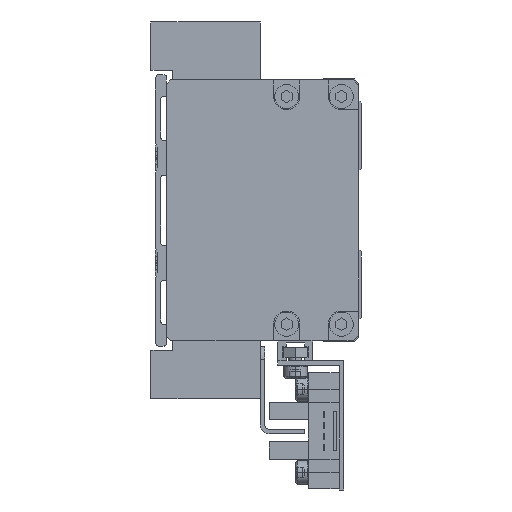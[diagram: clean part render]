
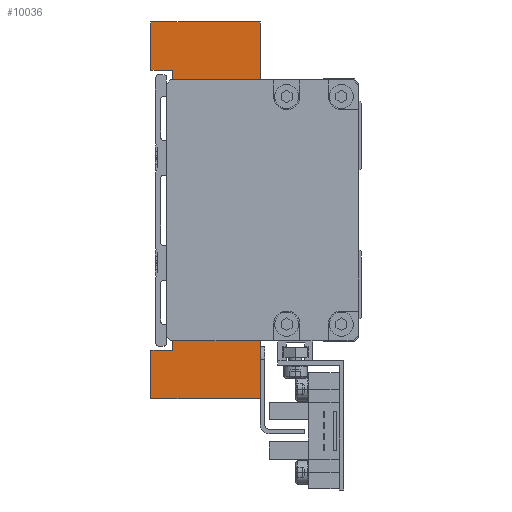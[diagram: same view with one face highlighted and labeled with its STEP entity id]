
A CAD part, left-side view. The second image highlights one B-rep face of the part: STEP entity #10036.
In plain terms, the highlighted planar face has unit normal (-1, 0, 0).
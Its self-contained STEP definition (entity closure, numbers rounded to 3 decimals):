
#158 = CARTESIAN_POINT ( 'NONE',  ( -77., 25., -32. ) ) ;
#394 = LINE ( 'NONE', #37944, #17163 ) ;
#1069 = LINE ( 'NONE', #34835, #35625 ) ;
#1081 = EDGE_CURVE ( 'NONE', #5918, #38554, #41211, .T. ) ;
#1323 = EDGE_CURVE ( 'NONE', #26289, #33802, #13485, .T. ) ;
#1567 = PLANE ( 'NONE',  #30807 ) ;
#2042 = DIRECTION ( 'NONE',  ( 0., 0., 1. ) ) ;
#2124 = CARTESIAN_POINT ( 'NONE',  ( -77., 0., -43. ) ) ;
#2476 = EDGE_CURVE ( 'NONE', #40049, #29755, #25386, .T. ) ;
#2695 = CARTESIAN_POINT ( 'NONE',  ( -77., 0., 43. ) ) ;
#2747 = CARTESIAN_POINT ( 'NONE',  ( -77., 10., 21. ) ) ;
#3418 = CARTESIAN_POINT ( 'NONE',  ( -77., 10., 21. ) ) ;
#3694 = ORIENTED_EDGE ( 'NONE', *, *, #29915, .F. ) ;
#4081 = CARTESIAN_POINT ( 'NONE',  ( -77., 0., -28. ) ) ;
#4165 = ORIENTED_EDGE ( 'NONE', *, *, #7227, .F. ) ;
#4426 = ORIENTED_EDGE ( 'NONE', *, *, #21443, .F. ) ;
#4429 = CARTESIAN_POINT ( 'NONE',  ( -77., 9., -21. ) ) ;
#4490 = ORIENTED_EDGE ( 'NONE', *, *, #1081, .F. ) ;
#4670 = VERTEX_POINT ( 'NONE', #10164 ) ;
#5067 = DIRECTION ( 'NONE',  ( 1., 0., 0. ) ) ;
#5171 = ORIENTED_EDGE ( 'NONE', *, *, #22488, .F. ) ;
#5528 = LINE ( 'NONE', #21082, #34335 ) ;
#5865 = LINE ( 'NONE', #11282, #6364 ) ;
#5918 = VERTEX_POINT ( 'NONE', #40939 ) ;
#5919 = EDGE_CURVE ( 'NONE', #29755, #15941, #5865, .T. ) ;
#6364 = VECTOR ( 'NONE', #14355, 1000. ) ;
#6502 = VECTOR ( 'NONE', #35739, 1000. ) ;
#7227 = EDGE_CURVE ( 'NONE', #10981, #5918, #41311, .T. ) ;
#7258 = CARTESIAN_POINT ( 'NONE',  ( -77., 9., -21. ) ) ;
#7646 = CARTESIAN_POINT ( 'NONE',  ( -77., 5., -21. ) ) ;
#7683 = EDGE_CURVE ( 'NONE', #16316, #12098, #1069, .T. ) ;
#8701 = EDGE_CURVE ( 'NONE', #26437, #4670, #27620, .T. ) ;
#9410 = CARTESIAN_POINT ( 'NONE',  ( -77., 20., 32. ) ) ;
#9486 = CARTESIAN_POINT ( 'NONE',  ( -77., 20., -32. ) ) ;
#9557 = DIRECTION ( 'NONE',  ( 0., 1., 0. ) ) ;
#9622 = ORIENTED_EDGE ( 'NONE', *, *, #5919, .F. ) ;
#10036 = ADVANCED_FACE ( 'NONE', ( #19652 ), #1567, .F. ) ;
#10098 = CARTESIAN_POINT ( 'NONE',  ( -77., 5., -21. ) ) ;
#10164 = CARTESIAN_POINT ( 'NONE',  ( -77., 0., -28. ) ) ;
#10880 = VECTOR ( 'NONE', #19548, 1000. ) ;
#10981 = VERTEX_POINT ( 'NONE', #23863 ) ;
#11260 = VECTOR ( 'NONE', #17054, 1000. ) ;
#11282 = CARTESIAN_POINT ( 'NONE',  ( -77., 25., -43. ) ) ;
#11992 = DIRECTION ( 'NONE',  ( 0., 1., 0. ) ) ;
#12098 = VERTEX_POINT ( 'NONE', #33073 ) ;
#13108 = ORIENTED_EDGE ( 'NONE', *, *, #39895, .F. ) ;
#13485 = LINE ( 'NONE', #2747, #10880 ) ;
#14049 = CARTESIAN_POINT ( 'NONE',  ( -77., 5., 28. ) ) ;
#14355 = DIRECTION ( 'NONE',  ( 0., 0., 1. ) ) ;
#14382 = CARTESIAN_POINT ( 'NONE',  ( -77., 5., 28. ) ) ;
#14466 = DIRECTION ( 'NONE',  ( 0., 0., -1. ) ) ;
#14775 = CARTESIAN_POINT ( 'NONE',  ( -77., 25., 43. ) ) ;
#14804 = VERTEX_POINT ( 'NONE', #41035 ) ;
#14884 = VECTOR ( 'NONE', #30542, 1000. ) ;
#15341 = CARTESIAN_POINT ( 'NONE',  ( -77., 0., -43. ) ) ;
#15941 = VERTEX_POINT ( 'NONE', #158 ) ;
#15993 = ORIENTED_EDGE ( 'NONE', *, *, #1323, .F. ) ;
#16136 = CARTESIAN_POINT ( 'NONE',  ( -77., 0., 28. ) ) ;
#16316 = VERTEX_POINT ( 'NONE', #9486 ) ;
#17030 = VECTOR ( 'NONE', #41150, 1000. ) ;
#17054 = DIRECTION ( 'NONE',  ( 0., -1., 0. ) ) ;
#17163 = VECTOR ( 'NONE', #18054, 1000. ) ;
#17301 = EDGE_CURVE ( 'NONE', #38554, #25231, #28430, .T. ) ;
#18054 = DIRECTION ( 'NONE',  ( 0., -1., 0. ) ) ;
#18184 = DIRECTION ( 'NONE',  ( 0., -1., 0. ) ) ;
#19548 = DIRECTION ( 'NONE',  ( 0., 0., -1. ) ) ;
#19652 = FACE_OUTER_BOUND ( 'NONE', #35694, .T. ) ;
#20285 = VECTOR ( 'NONE', #38161, 1000. ) ;
#20293 = LINE ( 'NONE', #4081, #33911 ) ;
#20334 = ORIENTED_EDGE ( 'NONE', *, *, #17301, .F. ) ;
#20688 = ORIENTED_EDGE ( 'NONE', *, *, #32562, .F. ) ;
#20899 = DIRECTION ( 'NONE',  ( 0., 0., -1. ) ) ;
#21077 = VERTEX_POINT ( 'NONE', #27569 ) ;
#21082 = CARTESIAN_POINT ( 'NONE',  ( -77., 9., -21. ) ) ;
#21443 = EDGE_CURVE ( 'NONE', #37811, #21496, #5528, .T. ) ;
#21496 = VERTEX_POINT ( 'NONE', #7646 ) ;
#22488 = EDGE_CURVE ( 'NONE', #12098, #10981, #43159, .T. ) ;
#22819 = VECTOR ( 'NONE', #11992, 1000. ) ;
#23863 = CARTESIAN_POINT ( 'NONE',  ( -77., 25., 32. ) ) ;
#23997 = CARTESIAN_POINT ( 'NONE',  ( -77., 10., -21. ) ) ;
#24062 = VECTOR ( 'NONE', #26362, 1000. ) ;
#25002 = EDGE_CURVE ( 'NONE', #14804, #21077, #394, .T. ) ;
#25204 = VECTOR ( 'NONE', #33733, 1000. ) ;
#25231 = VERTEX_POINT ( 'NONE', #16136 ) ;
#25386 = LINE ( 'NONE', #15341, #22819 ) ;
#25728 = CARTESIAN_POINT ( 'NONE',  ( -77., 10., 21. ) ) ;
#25900 = LINE ( 'NONE', #34178, #17030 ) ;
#26058 = CARTESIAN_POINT ( 'NONE',  ( -77., 0., 43. ) ) ;
#26182 = VECTOR ( 'NONE', #30398, 1000. ) ;
#26225 = ORIENTED_EDGE ( 'NONE', *, *, #2476, .F. ) ;
#26289 = VERTEX_POINT ( 'NONE', #3418 ) ;
#26362 = DIRECTION ( 'NONE',  ( 0., 0., 1. ) ) ;
#26437 = VERTEX_POINT ( 'NONE', #37101 ) ;
#27172 = EDGE_CURVE ( 'NONE', #26289, #14804, #32170, .T. ) ;
#27569 = CARTESIAN_POINT ( 'NONE',  ( -77., 5., 21. ) ) ;
#27620 = LINE ( 'NONE', #42156, #29702 ) ;
#28430 = LINE ( 'NONE', #26058, #6502 ) ;
#28983 = LINE ( 'NONE', #10098, #14884 ) ;
#29702 = VECTOR ( 'NONE', #35327, 1000. ) ;
#29755 = VERTEX_POINT ( 'NONE', #33045 ) ;
#29915 = EDGE_CURVE ( 'NONE', #21496, #26437, #28983, .T. ) ;
#30398 = DIRECTION ( 'NONE',  ( 0., 0., -1. ) ) ;
#30470 = VERTEX_POINT ( 'NONE', #14382 ) ;
#30542 = DIRECTION ( 'NONE',  ( 0., 0., -1. ) ) ;
#30807 = AXIS2_PLACEMENT_3D ( 'NONE', #41468, #5067, #14466 ) ;
#31225 = CARTESIAN_POINT ( 'NONE',  ( -77., 0., 28. ) ) ;
#32170 = LINE ( 'NONE', #25728, #11260 ) ;
#32524 = CARTESIAN_POINT ( 'NONE',  ( -77., 25., 32. ) ) ;
#32562 = EDGE_CURVE ( 'NONE', #30470, #21077, #36165, .T. ) ;
#33045 = CARTESIAN_POINT ( 'NONE',  ( -77., 25., -43. ) ) ;
#33073 = CARTESIAN_POINT ( 'NONE',  ( -77., 20., 32. ) ) ;
#33721 = ORIENTED_EDGE ( 'NONE', *, *, #35618, .F. ) ;
#33733 = DIRECTION ( 'NONE',  ( 0., 1., 0. ) ) ;
#33802 = VERTEX_POINT ( 'NONE', #23997 ) ;
#33871 = EDGE_CURVE ( 'NONE', #4670, #40049, #20293, .T. ) ;
#33911 = VECTOR ( 'NONE', #20899, 1000. ) ;
#33940 = VECTOR ( 'NONE', #41732, 1000. ) ;
#34178 = CARTESIAN_POINT ( 'NONE',  ( -77., 25., -32. ) ) ;
#34257 = ORIENTED_EDGE ( 'NONE', *, *, #8701, .F. ) ;
#34308 = VECTOR ( 'NONE', #9557, 1000. ) ;
#34335 = VECTOR ( 'NONE', #18184, 1000. ) ;
#34471 = ORIENTED_EDGE ( 'NONE', *, *, #25002, .T. ) ;
#34835 = CARTESIAN_POINT ( 'NONE',  ( -77., 20., -32. ) ) ;
#35078 = ORIENTED_EDGE ( 'NONE', *, *, #38127, .T. ) ;
#35327 = DIRECTION ( 'NONE',  ( 0., -1., 0. ) ) ;
#35618 = EDGE_CURVE ( 'NONE', #15941, #16316, #25900, .T. ) ;
#35625 = VECTOR ( 'NONE', #2042, 1000. ) ;
#35671 = LINE ( 'NONE', #7258, #25204 ) ;
#35694 = EDGE_LOOP ( 'NONE', ( #39340, #34471, #20688, #13108, #20334, #4490, #4165, #5171, #36317, #33721, #9622, #26225, #37820, #34257, #3694, #4426, #35078, #15993 ) ) ;
#35739 = DIRECTION ( 'NONE',  ( 0., 0., -1. ) ) ;
#36165 = LINE ( 'NONE', #14049, #26182 ) ;
#36317 = ORIENTED_EDGE ( 'NONE', *, *, #7683, .F. ) ;
#37101 = CARTESIAN_POINT ( 'NONE',  ( -77., 5., -28. ) ) ;
#37811 = VERTEX_POINT ( 'NONE', #4429 ) ;
#37820 = ORIENTED_EDGE ( 'NONE', *, *, #33871, .F. ) ;
#37944 = CARTESIAN_POINT ( 'NONE',  ( -77., 9., 21. ) ) ;
#38127 = EDGE_CURVE ( 'NONE', #37811, #33802, #35671, .T. ) ;
#38161 = DIRECTION ( 'NONE',  ( 0., -1., 0. ) ) ;
#38554 = VERTEX_POINT ( 'NONE', #2695 ) ;
#39340 = ORIENTED_EDGE ( 'NONE', *, *, #27172, .T. ) ;
#39895 = EDGE_CURVE ( 'NONE', #25231, #30470, #42785, .T. ) ;
#40049 = VERTEX_POINT ( 'NONE', #2124 ) ;
#40939 = CARTESIAN_POINT ( 'NONE',  ( -77., 25., 43. ) ) ;
#41035 = CARTESIAN_POINT ( 'NONE',  ( -77., 9., 21. ) ) ;
#41150 = DIRECTION ( 'NONE',  ( 0., -1., 0. ) ) ;
#41211 = LINE ( 'NONE', #14775, #20285 ) ;
#41311 = LINE ( 'NONE', #32524, #24062 ) ;
#41468 = CARTESIAN_POINT ( 'NONE',  ( -77., 10., 0. ) ) ;
#41732 = DIRECTION ( 'NONE',  ( 0., 1., 0. ) ) ;
#42156 = CARTESIAN_POINT ( 'NONE',  ( -77., 5., -28. ) ) ;
#42785 = LINE ( 'NONE', #31225, #33940 ) ;
#43159 = LINE ( 'NONE', #9410, #34308 ) ;
